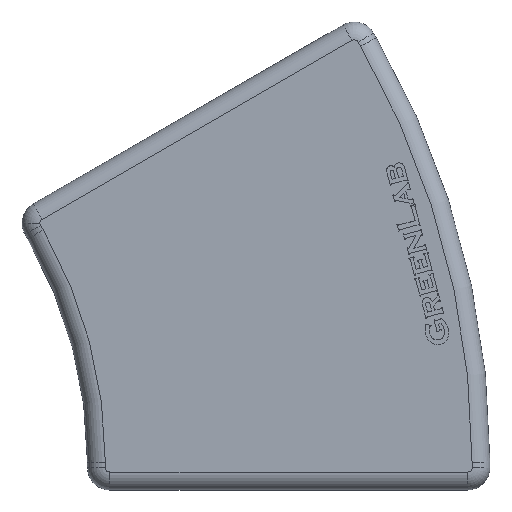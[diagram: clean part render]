
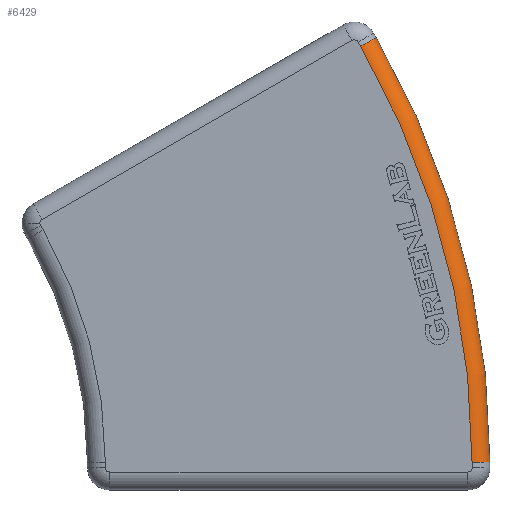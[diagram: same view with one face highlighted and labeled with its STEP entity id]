
A CAD part, top view. The second image highlights one B-rep face of the part: STEP entity #6429.
In plain terms, the highlighted toroidal (fillet/blend) face has major radius 93 mm and minor radius 2 mm.
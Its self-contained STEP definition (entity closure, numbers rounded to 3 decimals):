
#25 = EDGE_CURVE ( 'NONE', #7620, #955, #4270, .T. ) ;
#26 = DIRECTION ( 'NONE',  ( 0., 0., 1. ) ) ;
#141 = DIRECTION ( 'NONE',  ( -1., 0., 0. ) ) ;
#308 = CARTESIAN_POINT ( 'NONE',  ( 8.04, 27.074, 3. ) ) ;
#487 = DIRECTION ( 'NONE',  ( 0., 0., 1. ) ) ;
#527 = DIRECTION ( 'NONE',  ( 0.866, 0.5, 0. ) ) ;
#624 = CARTESIAN_POINT ( 'NONE',  ( 8.04, 27.074, 1. ) ) ;
#955 = VERTEX_POINT ( 'NONE', #308 ) ;
#982 = EDGE_CURVE ( 'NONE', #5781, #955, #1313, .T. ) ;
#1313 = CIRCLE ( 'NONE', #7323, 2. ) ;
#2667 = CARTESIAN_POINT ( 'NONE',  ( -72.5, -19.426, 1. ) ) ;
#2980 = EDGE_LOOP ( 'NONE', ( #6234, #6235, #3843, #8780 ) ) ;
#3245 = AXIS2_PLACEMENT_3D ( 'NONE', #8078, #26, #3299 ) ;
#3253 = CIRCLE ( 'NONE', #9243, 95. ) ;
#3299 = DIRECTION ( 'NONE',  ( -1., 0., 0. ) ) ;
#3505 = CARTESIAN_POINT ( 'NONE',  ( 9.772, 28.074, 1. ) ) ;
#3843 = ORIENTED_EDGE ( 'NONE', *, *, #982, .T. ) ;
#4270 = CIRCLE ( 'NONE', #3245, 93. ) ;
#4274 = AXIS2_PLACEMENT_3D ( 'NONE', #2667, #7650, #141 ) ;
#4276 = CIRCLE ( 'NONE', #5131, 2. ) ;
#4615 = CARTESIAN_POINT ( 'NONE',  ( 20.5, -19.426, 1. ) ) ;
#4732 = DIRECTION ( 'NONE',  ( -1., 0., 0. ) ) ;
#5131 = AXIS2_PLACEMENT_3D ( 'NONE', #4615, #10294, #487 ) ;
#5781 = VERTEX_POINT ( 'NONE', #3505 ) ;
#5892 = EDGE_CURVE ( 'NONE', #7620, #9284, #4276, .T. ) ;
#6234 = ORIENTED_EDGE ( 'NONE', *, *, #5892, .T. ) ;
#6235 = ORIENTED_EDGE ( 'NONE', *, *, #6476, .F. ) ;
#6429 = ADVANCED_FACE ( 'NONE', ( #8510 ), #10433, .T. ) ;
#6476 = EDGE_CURVE ( 'NONE', #5781, #9284, #3253, .T. ) ;
#7056 = CARTESIAN_POINT ( 'NONE',  ( 22.5, -19.426, 1. ) ) ;
#7323 = AXIS2_PLACEMENT_3D ( 'NONE', #624, #9417, #527 ) ;
#7620 = VERTEX_POINT ( 'NONE', #8372 ) ;
#7650 = DIRECTION ( 'NONE',  ( 0., 0., -1. ) ) ;
#8064 = CARTESIAN_POINT ( 'NONE',  ( -72.5, -19.426, 1. ) ) ;
#8078 = CARTESIAN_POINT ( 'NONE',  ( -72.5, -19.426, 3. ) ) ;
#8372 = CARTESIAN_POINT ( 'NONE',  ( 20.5, -19.426, 3. ) ) ;
#8510 = FACE_OUTER_BOUND ( 'NONE', #2980, .T. ) ;
#8780 = ORIENTED_EDGE ( 'NONE', *, *, #25, .F. ) ;
#9243 = AXIS2_PLACEMENT_3D ( 'NONE', #8064, #10466, #4732 ) ;
#9284 = VERTEX_POINT ( 'NONE', #7056 ) ;
#9417 = DIRECTION ( 'NONE',  ( 0.5, -0.866, 0. ) ) ;
#10294 = DIRECTION ( 'NONE',  ( 0., 1., 0. ) ) ;
#10433 = TOROIDAL_SURFACE ( 'NONE', #4274, 93., 2. ) ;
#10466 = DIRECTION ( 'NONE',  ( 0., 0., -1. ) ) ;
